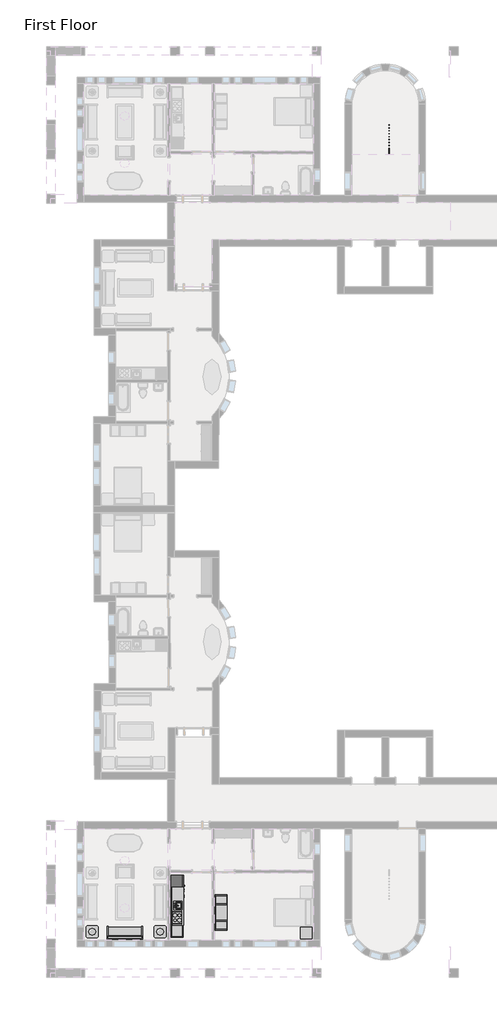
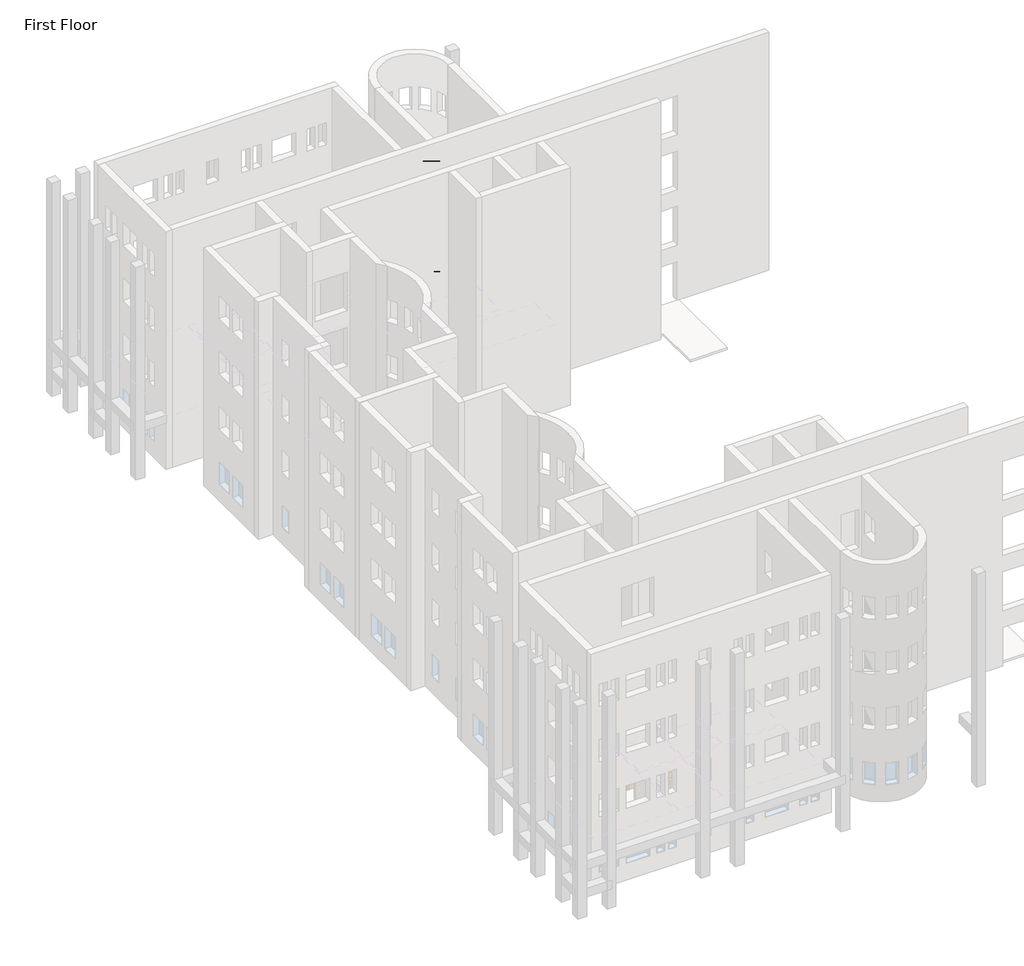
# One storey, part 19 of 21: 5 furniture elements, 1 proxy, 1 railing.
"""IFC4 building model written with IfcOpenShell, lengths in millimetres."""

from ifc_helpers import new_model, si_unit, frame, origin, place, context, project, spatial, polyline, circle_curve, ellipse_curve, outline, extrude, transform, mapped, element, save
from ifc_brep_helpers import plane_surface, cylinder_surface, advanced_brep
from components import proxy_64a468c4, furniture_ddc78764, furniture_4ef38d96, furniture_3a588284

model = new_model("IFC4")

# Units and contexts
model_context = context("Model", 3, world=origin())
ifc_project = project(units=[si_unit("LENGTHUNIT", "METRE", prefix="MILLI")], contexts=[model_context])

# Site, building, storey
site = spatial("IfcSite", under=ifc_project)
building = spatial("IfcBuilding", under=site)
storey = spatial("IfcBuildingStorey", under=building, Name="First Floor", Elevation=0.0)

# Proxy
placement = place(None, origin())
proxy_shape = proxy_64a468c4(model_context)
element("IfcBuildingElementProxy", 1, Name="Kitchenette - Medium : 8'6\"", ObjectType="Kitchenette - Medium : 8'6\"", at=placement, inside=storey, context=model_context, shape_type="MappedRepresentation", body=[
    mapped(proxy_shape, transform((-25982.5839563, -32446.1322699, 0.0), x_axis=(0.0, 1.0, 0.0), y_axis=(-1.0, 0.0, 0.0), z_axis=(0.0, 0.0, 1.0))),
])

# Furniture
furniture_shape = furniture_ddc78764(model_context)
element("IfcFurniture", 2, ObjectType="Entertainment Center : 72\" x 72\" x 24\"", at=placement, inside=storey, context=model_context, shape_type="MappedRepresentation", body=[
    mapped(furniture_shape, transform((-23810.8839563, -32461.1621827, 0.0), x_axis=(0.0, 1.0, 0.0), y_axis=(-1.0, 0.0, 0.0), z_axis=(0.0, 0.0, 1.0))),
])
furniture_2_shape = furniture_4ef38d96(model_context)
element("IfcFurniture", 3, ObjectType="Sofa : 72\"", at=placement, inside=storey, context=model_context, shape_type="MappedRepresentation", body=[
    mapped(furniture_2_shape, transform((-28312.5134645, -33349.614215, 0.0), x_axis=(-1.0, 0.0, 0.0), y_axis=(0.0, -1.0, 0.0), z_axis=(0.0, 0.0, 1.0))),
])
furniture_3_shape = furniture_3a588284(model_context)
element("IfcFurniture", 4, ObjectType="Table-End : 24\" x 24\"", at=placement, inside=storey, context=model_context, shape_type="MappedRepresentation", body=[
    mapped(furniture_3_shape, transform((-29750.750326, -33292.5683133, 0.0), x_axis=(-1.0, 0.0, 0.0), y_axis=(0.0, -1.0, 0.0), z_axis=(0.0, 0.0, 1.0))),
])
element("IfcFurniture", 5, ObjectType="Table-End : 24\" x 24\"", at=placement, inside=storey, context=model_context, shape_type="MappedRepresentation", body=[
    mapped(furniture_3_shape, transform((-26245.550326, -33292.5683133, 0.0), x_axis=(-1.0, 0.0, 0.0), y_axis=(0.0, -1.0, 0.0), z_axis=(0.0, 0.0, 1.0))),
])
element("IfcFurniture", 6, ObjectType="Table-End : 24\" x 24\"", at=placement, inside=storey, context=model_context, shape_type="MappedRepresentation", body=[
    mapped(furniture_3_shape, transform((-18706.1082771, -33364.4103623, 0.0), x_axis=(-1.0, 0.0, 0.0), y_axis=(0.0, -1.0, 0.0), z_axis=(0.0, 0.0, 1.0))),
])

# Railing
element("IfcRailing", 7, ObjectType="Handrail - Rectangular", at=placement, inside=storey, context=model_context, shape_type="SolidModel", body=[
    advanced_brep(
    [(-14712.9214563, 6636.2316867, 7157.4577857), (-14751.0214563, 6636.2316867, 7157.4577857), (-14712.9214563, 8826.9816867, 8485.1850584), (-14751.0214563, 8826.9816867, 8485.1850584)],
    [
        (0, 1, ellipse_curve(frame((-14731.9714563, 6636.2316867, 7157.4577857), z_axis=(0.0, -1.0, 0.0), x_axis=(0.0, 0.0, -1.0)), 22.2755476, 19.05)),
        (1, 0, ellipse_curve(frame((-14731.9714563, 6636.2316867, 7157.4577857), z_axis=(0.0, -1.0, 0.0), x_axis=(0.0, 0.0, -1.0)), 22.2755476, 19.05)),
        (2, 3, ellipse_curve(frame((-14731.9714563, 8826.9816867, 8485.1850584), z_axis=(0.0, 1.0, 0.0), x_axis=(0.0, 0.0, -1.0)), 22.2755476, 19.05)),
        (3, 2, ellipse_curve(frame((-14731.9714563, 8826.9816867, 8485.1850584), z_axis=(0.0, 1.0, 0.0), x_axis=(0.0, 0.0, -1.0)), 22.2755476, 19.05)),
        (0, 2),
        (3, 1),
    ],
    [
        plane_surface(frame((-14731.9714563, 6636.2316867, 7179.7333333), z_axis=(0.0, -1.0, 0.0), x_axis=(0.0, 0.0, 1.0))),
        plane_surface(frame((-14731.9714563, 8826.9816867, 8507.460606), z_axis=(0.0, 1.0, 0.0), x_axis=(0.0, 0.0, 1.0))),
        cylinder_surface(frame((-14731.9714563, 6646.1053344, 7163.4418146), z_axis=(0.0, -0.8551978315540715, -0.5183017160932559), x_axis=(-1.0, 0.0, 0.0)), 19.05),
    ],
    [
        (0, [[1, 2]]),
        (1, [[3, 4]]),
        (2, [[-1, 5, -4, 6]]),
        (2, [[-2, -6, -3, -5]]),
    ],
),
    advanced_brep(
    [(-14712.9214563, 8865.0816867, 8515.35), (-14712.9214563, 8826.9816867, 8515.35), (-15105.0339563, 8865.0816867, 8515.35), (-15105.0339563, 8826.9816867, 8515.35)],
    [
        (0, 1, circle_curve(frame((-14712.9214563, 8846.0316867, 8515.35), z_axis=(1.0, 0.0, 0.0), x_axis=(0.0, -1.0, 0.0)), 19.05)),
        (1, 0, circle_curve(frame((-14712.9214563, 8846.0316867, 8515.35), z_axis=(1.0, 0.0, 0.0), x_axis=(0.0, -1.0, 0.0)), 19.05)),
        (2, 3, circle_curve(frame((-15105.0339563, 8846.0316867, 8515.35), z_axis=(-1.0, 0.0, 0.0), x_axis=(0.0, -1.0, 0.0)), 19.05)),
        (3, 2, circle_curve(frame((-15105.0339563, 8846.0316867, 8515.35), z_axis=(-1.0, 0.0, 0.0), x_axis=(0.0, -1.0, 0.0)), 19.05)),
        (0, 2),
        (3, 1),
    ],
    [
        plane_surface(frame((-14712.9214563, 8846.0316867, 8534.4), z_axis=(1.0, 0.0, 0.0), x_axis=(0.0, -1.0, 0.0))),
        plane_surface(frame((-15105.0339563, 8846.0316867, 8534.4), z_axis=(-1.0, 0.0, 0.0), x_axis=(0.0, -1.0, 0.0))),
        cylinder_surface(frame((-14712.9214563, 8846.0316867, 8515.35), z_axis=(1.0, 0.0, 0.0), x_axis=(0.0, -1.0, 0.0)), 19.05),
    ],
    [
        (0, [[1, 2]]),
        (1, [[3, 4]]),
        (2, [[-1, 5, -4, 6]]),
        (2, [[-2, -6, -3, -5]]),
    ],
),
    advanced_brep(
    [(-15143.1339563, 8865.0816867, 8685.3062706), (-15105.0339563, 8865.0816867, 8685.3062706), (-15143.1339563, 6636.2316867, 10036.1244524), (-15105.0339563, 6636.2316867, 10036.1244524)],
    [
        (0, 1, ellipse_curve(frame((-15124.0839563, 8865.0816867, 8685.3062706), z_axis=(0.0, 1.0, 0.0), x_axis=(0.0, 0.0, -1.0)), 22.2755476, 19.05)),
        (1, 0, ellipse_curve(frame((-15124.0839563, 8865.0816867, 8685.3062706), z_axis=(0.0, 1.0, 0.0), x_axis=(0.0, 0.0, -1.0)), 22.2755476, 19.05)),
        (2, 3, ellipse_curve(frame((-15124.0839563, 6636.2316867, 10036.1244524), z_axis=(0.0, -1.0, 0.0), x_axis=(0.0, 0.0, -1.0)), 22.2755476, 19.05)),
        (3, 2, ellipse_curve(frame((-15124.0839563, 6636.2316867, 10036.1244524), z_axis=(0.0, -1.0, 0.0), x_axis=(0.0, 0.0, -1.0)), 22.2755476, 19.05)),
        (0, 2),
        (3, 1),
    ],
    [
        plane_surface(frame((-15124.0839563, 8865.0816867, 8707.5818182), z_axis=(0.0, 1.0, 0.0), x_axis=(0.0, 0.0, -1.0))),
        plane_surface(frame((-15124.0839563, 6636.2316867, 10058.4), z_axis=(0.0, -1.0, 0.0), x_axis=(0.0, 0.0, -1.0))),
        cylinder_surface(frame((-15124.0839563, 8855.208039, 8691.2902995), z_axis=(0.0, 0.8551978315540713, -0.5183017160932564), x_axis=(1.0, 0.0, 0.0)), 19.05),
    ],
    [
        (0, [[1, 2]]),
        (1, [[3, 4]]),
        (2, [[-1, 5, -4, 6]]),
        (2, [[-2, -6, -3, -5]]),
    ],
),
    extrude(outline(polyline([(6721.9566867, 9961.8943593), (6721.9566867, 9134.8266332), (6702.9066867, 9146.3720877), (6702.9066867, 9973.4398139), (6721.9566867, 9961.8943593)])), frame((-15133.6089563, 0.0, 0.0), z_axis=(1.0, 0.0, 0.0), x_axis=(0.0, 1.0, 0.0)), (0.0, 0.0, 1.0), 19.05),
    extrude(outline(polyline([(6874.3566867, 9869.530723), (6874.3566867, 9042.4629968), (6855.3066867, 9054.0084513), (6855.3066867, 9881.0761775), (6874.3566867, 9869.530723)])), frame((-15133.6089563, 0.0, 0.0), z_axis=(1.0, 0.0, 0.0), x_axis=(0.0, 1.0, 0.0)), (0.0, 0.0, 1.0), 19.05),
    extrude(outline(polyline([(7026.7566867, 9777.1670866), (7026.7566867, 8950.0993604), (7007.7066867, 8961.644815), (7007.7066867, 9788.7125412), (7026.7566867, 9777.1670866)])), frame((-15133.6089563, 0.0, 0.0), z_axis=(1.0, 0.0, 0.0), x_axis=(0.0, 1.0, 0.0)), (0.0, 0.0, 1.0), 19.05),
    extrude(outline(polyline([(7179.1566867, 9684.8034502), (7179.1566867, 8857.7357241), (7160.1066867, 8869.2811786), (7160.1066867, 9696.3489048), (7179.1566867, 9684.8034502)])), frame((-15133.6089563, 0.0, 0.0), z_axis=(1.0, 0.0, 0.0), x_axis=(0.0, 1.0, 0.0)), (0.0, 0.0, 1.0), 19.05),
    extrude(outline(polyline([(7331.5566867, 9592.4398139), (7331.5566867, 8765.3720877), (7312.5066867, 8776.9175422), (7312.5066867, 9603.9852684), (7331.5566867, 9592.4398139)])), frame((-15133.6089563, 0.0, 0.0), z_axis=(1.0, 0.0, 0.0), x_axis=(0.0, 1.0, 0.0)), (0.0, 0.0, 1.0), 19.05),
    extrude(outline(polyline([(7483.9566867, 9500.0761775), (7483.9566867, 8673.0084513), (7464.9066867, 8684.5539059), (7464.9066867, 9511.6216321), (7483.9566867, 9500.0761775)])), frame((-15133.6089563, 0.0, 0.0), z_axis=(1.0, 0.0, 0.0), x_axis=(0.0, 1.0, 0.0)), (0.0, 0.0, 1.0), 19.05),
    extrude(outline(polyline([(7636.3566867, 9407.7125412), (7636.3566867, 8580.644815), (7617.3066867, 8592.1902695), (7617.3066867, 9419.2579957), (7636.3566867, 9407.7125412)])), frame((-15133.6089563, 0.0, 0.0), z_axis=(1.0, 0.0, 0.0), x_axis=(0.0, 1.0, 0.0)), (0.0, 0.0, 1.0), 19.05),
    extrude(outline(polyline([(7788.7566867, 9315.3489048), (7788.7566867, 8488.2811786), (7769.7066867, 8499.8266332), (7769.7066867, 9326.8943593), (7788.7566867, 9315.3489048)])), frame((-15133.6089563, 0.0, 0.0), z_axis=(1.0, 0.0, 0.0), x_axis=(0.0, 1.0, 0.0)), (0.0, 0.0, 1.0), 19.05),
    extrude(outline(polyline([(7941.1566867, 9222.9852684), (7941.1566867, 8395.9175422), (7922.1066867, 8407.4629968), (7922.1066867, 9234.530723), (7941.1566867, 9222.9852684)])), frame((-15133.6089563, 0.0, 0.0), z_axis=(1.0, 0.0, 0.0), x_axis=(0.0, 1.0, 0.0)), (0.0, 0.0, 1.0), 19.05),
    extrude(outline(polyline([(8093.5566867, 9130.6216321), (8093.5566867, 8303.5539059), (8074.5066867, 8315.0993604), (8074.5066867, 9142.1670866), (8093.5566867, 9130.6216321)])), frame((-15133.6089563, 0.0, 0.0), z_axis=(1.0, 0.0, 0.0), x_axis=(0.0, 1.0, 0.0)), (0.0, 0.0, 1.0), 19.05),
    extrude(outline(polyline([(8245.9566867, 9038.2579957), (8245.9566867, 8211.1902695), (8226.9066867, 8222.7357241), (8226.9066867, 9049.8034502), (8245.9566867, 9038.2579957)])), frame((-15133.6089563, 0.0, 0.0), z_axis=(1.0, 0.0, 0.0), x_axis=(0.0, 1.0, 0.0)), (0.0, 0.0, 1.0), 19.05),
    extrude(outline(polyline([(8398.3566867, 8945.8943593), (8398.3566867, 8118.8266332), (8379.3066867, 8130.3720877), (8379.3066867, 8957.4398139), (8398.3566867, 8945.8943593)])), frame((-15133.6089563, 0.0, 0.0), z_axis=(1.0, 0.0, 0.0), x_axis=(0.0, 1.0, 0.0)), (0.0, 0.0, 1.0), 19.05),
    extrude(outline(polyline([(8550.7566867, 8853.530723), (8550.7566867, 8026.4629968), (8531.7066867, 8038.0084513), (8531.7066867, 8865.0761775), (8550.7566867, 8853.530723)])), frame((-15133.6089563, 0.0, 0.0), z_axis=(1.0, 0.0, 0.0), x_axis=(0.0, 1.0, 0.0)), (0.0, 0.0, 1.0), 19.05),
    extrude(outline(polyline([(8703.1566867, 8761.1670866), (8703.1566867, 7934.0993604), (8684.1066867, 7945.644815), (8684.1066867, 8772.7125412), (8703.1566867, 8761.1670866)])), frame((-15133.6089563, 0.0, 0.0), z_axis=(1.0, 0.0, 0.0), x_axis=(0.0, 1.0, 0.0)), (0.0, 0.0, 1.0), 19.05),
    extrude(outline(polyline([(-15027.2464563, 8836.5066867), (-15046.2964563, 8836.5066867), (-15046.2964563, 8855.5566867), (-15027.2464563, 8855.5566867), (-15027.2464563, 8836.5066867)])), frame((0.0, 0.0, 7696.2), z_axis=(0.0, 0.0, 1.0), x_axis=(1.0, 0.0, 0.0)), (0.0, 0.0, 1.0), 800.1),
    extrude(outline(polyline([(-14874.8464563, 8836.5066867), (-14893.8964563, 8836.5066867), (-14893.8964563, 8855.5566867), (-14874.8464563, 8855.5566867), (-14874.8464563, 8836.5066867)])), frame((0.0, 0.0, 7696.2), z_axis=(0.0, 0.0, 1.0), x_axis=(1.0, 0.0, 0.0)), (0.0, 0.0, 1.0), 800.1),
    extrude(outline(polyline([(8779.3566867, 8434.0458745), (8779.3566867, 7606.9781483), (8760.3066867, 7595.4326938), (8760.3066867, 8422.5004199), (8779.3566867, 8434.0458745)])), frame((-14741.4964563, 0.0, 0.0), z_axis=(1.0, 0.0, 0.0), x_axis=(0.0, 1.0, 0.0)), (0.0, 0.0, 1.0), 19.05),
    extrude(outline(polyline([(8626.9566867, 8341.6822381), (8626.9566867, 7514.6145119), (8607.9066867, 7503.0690574), (8607.9066867, 8330.1367836), (8626.9566867, 8341.6822381)])), frame((-14741.4964563, 0.0, 0.0), z_axis=(1.0, 0.0, 0.0), x_axis=(0.0, 1.0, 0.0)), (0.0, 0.0, 1.0), 19.05),
    extrude(outline(polyline([(8474.5566867, 8249.3186018), (8474.5566867, 7422.2508756), (8455.5066867, 7410.705421), (8455.5066867, 8237.7731472), (8474.5566867, 8249.3186018)])), frame((-14741.4964563, 0.0, 0.0), z_axis=(1.0, 0.0, 0.0), x_axis=(0.0, 1.0, 0.0)), (0.0, 0.0, 1.0), 19.05),
    extrude(outline(polyline([(8322.1566867, 8156.9549654), (8322.1566867, 7329.8872392), (8303.1066867, 7318.3417847), (8303.1066867, 8145.4095109), (8322.1566867, 8156.9549654)])), frame((-14741.4964563, 0.0, 0.0), z_axis=(1.0, 0.0, 0.0), x_axis=(0.0, 1.0, 0.0)), (0.0, 0.0, 1.0), 19.05),
    extrude(outline(polyline([(8169.7566867, 8064.591329), (8169.7566867, 7237.5236029), (8150.7066867, 7225.9781483), (8150.7066867, 8053.0458745), (8169.7566867, 8064.591329)])), frame((-14741.4964563, 0.0, 0.0), z_axis=(1.0, 0.0, 0.0), x_axis=(0.0, 1.0, 0.0)), (0.0, 0.0, 1.0), 19.05),
    extrude(outline(polyline([(8017.3566867, 7972.2276927), (8017.3566867, 7145.1599665), (7998.3066867, 7133.6145119), (7998.3066867, 7960.6822381), (8017.3566867, 7972.2276927)])), frame((-14741.4964563, 0.0, 0.0), z_axis=(1.0, 0.0, 0.0), x_axis=(0.0, 1.0, 0.0)), (0.0, 0.0, 1.0), 19.05),
    extrude(outline(polyline([(7864.9566867, 7879.8640563), (7864.9566867, 7052.7963301), (7845.9066867, 7041.2508756), (7845.9066867, 7868.3186018), (7864.9566867, 7879.8640563)])), frame((-14741.4964563, 0.0, 0.0), z_axis=(1.0, 0.0, 0.0), x_axis=(0.0, 1.0, 0.0)), (0.0, 0.0, 1.0), 19.05),
    extrude(outline(polyline([(7712.5566867, 7787.5004199), (7712.5566867, 6960.4326938), (7693.5066867, 6948.8872392), (7693.5066867, 7775.9549654), (7712.5566867, 7787.5004199)])), frame((-14741.4964563, 0.0, 0.0), z_axis=(1.0, 0.0, 0.0), x_axis=(0.0, 1.0, 0.0)), (0.0, 0.0, 1.0), 19.05),
    extrude(outline(polyline([(7560.1566867, 7695.1367836), (7560.1566867, 6868.0690574), (7541.1066867, 6856.5236029), (7541.1066867, 7683.591329), (7560.1566867, 7695.1367836)])), frame((-14741.4964563, 0.0, 0.0), z_axis=(1.0, 0.0, 0.0), x_axis=(0.0, 1.0, 0.0)), (0.0, 0.0, 1.0), 19.05),
    extrude(outline(polyline([(7407.7566867, 7602.7731472), (7407.7566867, 6775.705421), (7388.7066867, 6764.1599665), (7388.7066867, 7591.2276927), (7407.7566867, 7602.7731472)])), frame((-14741.4964563, 0.0, 0.0), z_axis=(1.0, 0.0, 0.0), x_axis=(0.0, 1.0, 0.0)), (0.0, 0.0, 1.0), 19.05),
    extrude(outline(polyline([(7255.3566867, 7510.4095109), (7255.3566867, 6683.3417847), (7236.3066867, 6671.7963301), (7236.3066867, 7498.8640563), (7255.3566867, 7510.4095109)])), frame((-14741.4964563, 0.0, 0.0), z_axis=(1.0, 0.0, 0.0), x_axis=(0.0, 1.0, 0.0)), (0.0, 0.0, 1.0), 19.05),
    extrude(outline(polyline([(7102.9566867, 7418.0458745), (7102.9566867, 6590.9781483), (7083.9066867, 6579.4326938), (7083.9066867, 7406.5004199), (7102.9566867, 7418.0458745)])), frame((-14741.4964563, 0.0, 0.0), z_axis=(1.0, 0.0, 0.0), x_axis=(0.0, 1.0, 0.0)), (0.0, 0.0, 1.0), 19.05),
    extrude(outline(polyline([(6950.5566867, 7325.6822381), (6950.5566867, 6498.6145119), (6931.5066867, 6487.0690574), (6931.5066867, 7314.1367836), (6950.5566867, 7325.6822381)])), frame((-14741.4964563, 0.0, 0.0), z_axis=(1.0, 0.0, 0.0), x_axis=(0.0, 1.0, 0.0)), (0.0, 0.0, 1.0), 19.05),
    extrude(outline(polyline([(6798.1566867, 7233.3186018), (6798.1566867, 6406.2508756), (6779.1066867, 6394.705421), (6779.1066867, 7221.7731472), (6798.1566867, 7233.3186018)])), frame((-14741.4964563, 0.0, 0.0), z_axis=(1.0, 0.0, 0.0), x_axis=(0.0, 1.0, 0.0)), (0.0, 0.0, 1.0), 19.05),
    extrude(outline(polyline([(8855.5566867, 8668.8034502), (8855.5566867, 7841.7357241), (8836.5066867, 7853.2811786), (8836.5066867, 8680.3489048), (8855.5566867, 8668.8034502)])), frame((-15133.6089563, 0.0, 0.0), z_axis=(1.0, 0.0, 0.0), x_axis=(0.0, 1.0, 0.0)), (0.0, 0.0, 1.0), 19.05),
    extrude(outline(polyline([(-14722.4464563, 8836.5066867), (-14741.4964563, 8836.5066867), (-14741.4964563, 8855.5566867), (-14722.4464563, 8855.5566867), (-14722.4464563, 8836.5066867)])), frame((0.0, 0.0, 7696.2), z_axis=(0.0, 0.0, 1.0), x_axis=(1.0, 0.0, 0.0)), (0.0, 0.0, 1.0), 800.1),
    extrude(outline(polyline([(6655.2816867, 10002.3034502), (6655.2816867, 9175.2357241), (6636.2316867, 9186.7811786), (6636.2316867, 10013.8489048), (6655.2816867, 10002.3034502)])), frame((-15133.6089563, 0.0, 0.0), z_axis=(1.0, 0.0, 0.0), x_axis=(0.0, 1.0, 0.0)), (0.0, 0.0, 1.0), 19.05),
    extrude(outline(polyline([(6655.2816867, 7146.7276927), (6655.2816867, 6319.6599665), (6636.2316867, 6308.1145119), (6636.2316867, 7135.1822381), (6655.2816867, 7146.7276927)])), frame((-14741.4964563, 0.0, 0.0), z_axis=(1.0, 0.0, 0.0), x_axis=(0.0, 1.0, 0.0)), (0.0, 0.0, 1.0), 19.05),
    advanced_brep(
    [(-14712.9214563, 6636.2316867, 4109.4577857), (-14751.0214563, 6636.2316867, 4109.4577857), (-14712.9214563, 8826.9816867, 5437.1850585), (-14751.0214563, 8826.9816867, 5437.1850585)],
    [
        (0, 1, ellipse_curve(frame((-14731.9714563, 6636.2316867, 4109.4577857), z_axis=(0.0, -1.0, 0.0), x_axis=(0.0, 0.0, -1.0)), 22.2755476, 19.05)),
        (1, 0, ellipse_curve(frame((-14731.9714563, 6636.2316867, 4109.4577857), z_axis=(0.0, -1.0, 0.0), x_axis=(0.0, 0.0, -1.0)), 22.2755476, 19.05)),
        (2, 3, ellipse_curve(frame((-14731.9714563, 8826.9816867, 5437.1850585), z_axis=(0.0, 1.0, 0.0), x_axis=(0.0, 0.0, -1.0)), 22.2755476, 19.05)),
        (3, 2, ellipse_curve(frame((-14731.9714563, 8826.9816867, 5437.1850585), z_axis=(0.0, 1.0, 0.0), x_axis=(0.0, 0.0, -1.0)), 22.2755476, 19.05)),
        (0, 2),
        (3, 1),
    ],
    [
        plane_surface(frame((-14731.9714563, 6636.2316867, 4131.7333333), z_axis=(0.0, -1.0, 0.0), x_axis=(0.0, 0.0, 1.0))),
        plane_surface(frame((-14731.9714563, 8826.9816867, 5459.4606061), z_axis=(0.0, 1.0, 0.0), x_axis=(0.0, 0.0, 1.0))),
        cylinder_surface(frame((-14731.9714563, 6646.1053344, 4115.4418146), z_axis=(0.0, -0.8551978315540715, -0.5183017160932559), x_axis=(-1.0, 0.0, 0.0)), 19.05),
    ],
    [
        (0, [[1, 2]]),
        (1, [[3, 4]]),
        (2, [[-1, 5, -4, 6]]),
        (2, [[-2, -6, -3, -5]]),
    ],
),
    advanced_brep(
    [(-14712.9214563, 8865.0816867, 5467.35), (-14712.9214563, 8826.9816867, 5467.35), (-15105.0339563, 8865.0816867, 5467.35), (-15105.0339563, 8826.9816867, 5467.35)],
    [
        (0, 1, circle_curve(frame((-14712.9214563, 8846.0316867, 5467.35), z_axis=(1.0, 0.0, 0.0), x_axis=(0.0, -1.0, 0.0)), 19.05)),
        (1, 0, circle_curve(frame((-14712.9214563, 8846.0316867, 5467.35), z_axis=(1.0, 0.0, 0.0), x_axis=(0.0, -1.0, 0.0)), 19.05)),
        (2, 3, circle_curve(frame((-15105.0339563, 8846.0316867, 5467.35), z_axis=(-1.0, 0.0, 0.0), x_axis=(0.0, -1.0, 0.0)), 19.05)),
        (3, 2, circle_curve(frame((-15105.0339563, 8846.0316867, 5467.35), z_axis=(-1.0, 0.0, 0.0), x_axis=(0.0, -1.0, 0.0)), 19.05)),
        (0, 2),
        (3, 1),
    ],
    [
        plane_surface(frame((-14712.9214563, 8846.0316867, 5486.4), z_axis=(1.0, 0.0, 0.0), x_axis=(0.0, -1.0, 0.0))),
        plane_surface(frame((-15105.0339563, 8846.0316867, 5486.4), z_axis=(-1.0, 0.0, 0.0), x_axis=(0.0, -1.0, 0.0))),
        cylinder_surface(frame((-14712.9214563, 8846.0316867, 5467.35), z_axis=(1.0, 0.0, 0.0), x_axis=(0.0, -1.0, 0.0)), 19.05),
    ],
    [
        (0, [[1, 2]]),
        (1, [[3, 4]]),
        (2, [[-1, 5, -4, 6]]),
        (2, [[-2, -6, -3, -5]]),
    ],
),
    advanced_brep(
    [(-15143.1339563, 8865.0816867, 5637.3062706), (-15105.0339563, 8865.0816867, 5637.3062706), (-15143.1339563, 6636.2316867, 6988.1244524), (-15105.0339563, 6636.2316867, 6988.1244524)],
    [
        (0, 1, ellipse_curve(frame((-15124.0839563, 8865.0816867, 5637.3062706), z_axis=(0.0, 1.0, 0.0), x_axis=(0.0, 0.0, -1.0)), 22.2755476, 19.05)),
        (1, 0, ellipse_curve(frame((-15124.0839563, 8865.0816867, 5637.3062706), z_axis=(0.0, 1.0, 0.0), x_axis=(0.0, 0.0, -1.0)), 22.2755476, 19.05)),
        (2, 3, ellipse_curve(frame((-15124.0839563, 6636.2316867, 6988.1244524), z_axis=(0.0, -1.0, 0.0), x_axis=(0.0, 0.0, -1.0)), 22.2755476, 19.05)),
        (3, 2, ellipse_curve(frame((-15124.0839563, 6636.2316867, 6988.1244524), z_axis=(0.0, -1.0, 0.0), x_axis=(0.0, 0.0, -1.0)), 22.2755476, 19.05)),
        (0, 2),
        (3, 1),
    ],
    [
        plane_surface(frame((-15124.0839563, 8865.0816867, 5659.5818182), z_axis=(0.0, 1.0, 0.0), x_axis=(0.0, 0.0, -1.0))),
        plane_surface(frame((-15124.0839563, 6636.2316867, 7010.4), z_axis=(0.0, -1.0, 0.0), x_axis=(0.0, 0.0, -1.0))),
        cylinder_surface(frame((-15124.0839563, 8855.208039, 5643.2902995), z_axis=(0.0, 0.8551978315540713, -0.5183017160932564), x_axis=(1.0, 0.0, 0.0)), 19.05),
    ],
    [
        (0, [[1, 2]]),
        (1, [[3, 4]]),
        (2, [[-1, 5, -4, 6]]),
        (2, [[-2, -6, -3, -5]]),
    ],
),
    extrude(outline(polyline([(6721.9566867, 6913.8943593), (6721.9566867, 6086.8266332), (6702.9066867, 6098.3720877), (6702.9066867, 6925.4398139), (6721.9566867, 6913.8943593)])), frame((-15133.6089563, 0.0, 0.0), z_axis=(1.0, 0.0, 0.0), x_axis=(0.0, 1.0, 0.0)), (0.0, 0.0, 1.0), 19.05),
    extrude(outline(polyline([(6874.3566867, 6821.530723), (6874.3566867, 5994.4629968), (6855.3066867, 6006.0084513), (6855.3066867, 6833.0761775), (6874.3566867, 6821.530723)])), frame((-15133.6089563, 0.0, 0.0), z_axis=(1.0, 0.0, 0.0), x_axis=(0.0, 1.0, 0.0)), (0.0, 0.0, 1.0), 19.05),
    extrude(outline(polyline([(7026.7566867, 6729.1670866), (7026.7566867, 5902.0993604), (7007.7066867, 5913.644815), (7007.7066867, 6740.7125412), (7026.7566867, 6729.1670866)])), frame((-15133.6089563, 0.0, 0.0), z_axis=(1.0, 0.0, 0.0), x_axis=(0.0, 1.0, 0.0)), (0.0, 0.0, 1.0), 19.05),
    extrude(outline(polyline([(7179.1566867, 6636.8034503), (7179.1566867, 5809.7357241), (7160.1066867, 5821.2811786), (7160.1066867, 6648.3489048), (7179.1566867, 6636.8034503)])), frame((-15133.6089563, 0.0, 0.0), z_axis=(1.0, 0.0, 0.0), x_axis=(0.0, 1.0, 0.0)), (0.0, 0.0, 1.0), 19.05),
    extrude(outline(polyline([(7331.5566867, 6544.4398139), (7331.5566867, 5717.3720877), (7312.5066867, 5728.9175423), (7312.5066867, 6555.9852684), (7331.5566867, 6544.4398139)])), frame((-15133.6089563, 0.0, 0.0), z_axis=(1.0, 0.0, 0.0), x_axis=(0.0, 1.0, 0.0)), (0.0, 0.0, 1.0), 19.05),
    extrude(outline(polyline([(7483.9566867, 6452.0761775), (7483.9566867, 5625.0084513), (7464.9066867, 5636.5539059), (7464.9066867, 6463.6216321), (7483.9566867, 6452.0761775)])), frame((-15133.6089563, 0.0, 0.0), z_axis=(1.0, 0.0, 0.0), x_axis=(0.0, 1.0, 0.0)), (0.0, 0.0, 1.0), 19.05),
    extrude(outline(polyline([(7636.3566867, 6359.7125412), (7636.3566867, 5532.644815), (7617.3066867, 5544.1902695), (7617.3066867, 6371.2579957), (7636.3566867, 6359.7125412)])), frame((-15133.6089563, 0.0, 0.0), z_axis=(1.0, 0.0, 0.0), x_axis=(0.0, 1.0, 0.0)), (0.0, 0.0, 1.0), 19.05),
    extrude(outline(polyline([(7788.7566867, 6267.3489048), (7788.7566867, 5440.2811786), (7769.7066867, 5451.8266332), (7769.7066867, 6278.8943593), (7788.7566867, 6267.3489048)])), frame((-15133.6089563, 0.0, 0.0), z_axis=(1.0, 0.0, 0.0), x_axis=(0.0, 1.0, 0.0)), (0.0, 0.0, 1.0), 19.05),
    extrude(outline(polyline([(7941.1566867, 6174.9852684), (7941.1566867, 5347.9175423), (7922.1066867, 5359.4629968), (7922.1066867, 6186.530723), (7941.1566867, 6174.9852684)])), frame((-15133.6089563, 0.0, 0.0), z_axis=(1.0, 0.0, 0.0), x_axis=(0.0, 1.0, 0.0)), (0.0, 0.0, 1.0), 19.05),
    extrude(outline(polyline([(8093.5566867, 6082.6216321), (8093.5566867, 5255.5539059), (8074.5066867, 5267.0993604), (8074.5066867, 6094.1670866), (8093.5566867, 6082.6216321)])), frame((-15133.6089563, 0.0, 0.0), z_axis=(1.0, 0.0, 0.0), x_axis=(0.0, 1.0, 0.0)), (0.0, 0.0, 1.0), 19.05),
    extrude(outline(polyline([(8245.9566867, 5990.2579957), (8245.9566867, 5163.1902695), (8226.9066867, 5174.7357241), (8226.9066867, 6001.8034503), (8245.9566867, 5990.2579957)])), frame((-15133.6089563, 0.0, 0.0), z_axis=(1.0, 0.0, 0.0), x_axis=(0.0, 1.0, 0.0)), (0.0, 0.0, 1.0), 19.05),
    extrude(outline(polyline([(8398.3566867, 5897.8943593), (8398.3566867, 5070.8266332), (8379.3066867, 5082.3720877), (8379.3066867, 5909.4398139), (8398.3566867, 5897.8943593)])), frame((-15133.6089563, 0.0, 0.0), z_axis=(1.0, 0.0, 0.0), x_axis=(0.0, 1.0, 0.0)), (0.0, 0.0, 1.0), 19.05),
    extrude(outline(polyline([(8550.7566867, 5805.530723), (8550.7566867, 4978.4629968), (8531.7066867, 4990.0084513), (8531.7066867, 5817.0761775), (8550.7566867, 5805.530723)])), frame((-15133.6089563, 0.0, 0.0), z_axis=(1.0, 0.0, 0.0), x_axis=(0.0, 1.0, 0.0)), (0.0, 0.0, 1.0), 19.05),
    extrude(outline(polyline([(8703.1566867, 5713.1670866), (8703.1566867, 4886.0993604), (8684.1066867, 4897.644815), (8684.1066867, 5724.7125412), (8703.1566867, 5713.1670866)])), frame((-15133.6089563, 0.0, 0.0), z_axis=(1.0, 0.0, 0.0), x_axis=(0.0, 1.0, 0.0)), (0.0, 0.0, 1.0), 19.05),
    extrude(outline(polyline([(-15027.2464563, 8836.5066867), (-15046.2964563, 8836.5066867), (-15046.2964563, 8855.5566867), (-15027.2464563, 8855.5566867), (-15027.2464563, 8836.5066867)])), frame((0.0, 0.0, 4648.2), z_axis=(0.0, 0.0, 1.0), x_axis=(1.0, 0.0, 0.0)), (0.0, 0.0, 1.0), 800.1),
    extrude(outline(polyline([(-14874.8464563, 8836.5066867), (-14893.8964563, 8836.5066867), (-14893.8964563, 8855.5566867), (-14874.8464563, 8855.5566867), (-14874.8464563, 8836.5066867)])), frame((0.0, 0.0, 4648.2), z_axis=(0.0, 0.0, 1.0), x_axis=(1.0, 0.0, 0.0)), (0.0, 0.0, 1.0), 800.1),
    extrude(outline(polyline([(8779.3566867, 5386.0458745), (8779.3566867, 4558.9781483), (8760.3066867, 4547.4326938), (8760.3066867, 5374.50042), (8779.3566867, 5386.0458745)])), frame((-14741.4964563, 0.0, 0.0), z_axis=(1.0, 0.0, 0.0), x_axis=(0.0, 1.0, 0.0)), (0.0, 0.0, 1.0), 19.05),
    extrude(outline(polyline([(8626.9566867, 5293.6822381), (8626.9566867, 4466.614512), (8607.9066867, 4455.0690574), (8607.9066867, 5282.1367836), (8626.9566867, 5293.6822381)])), frame((-14741.4964563, 0.0, 0.0), z_axis=(1.0, 0.0, 0.0), x_axis=(0.0, 1.0, 0.0)), (0.0, 0.0, 1.0), 19.05),
    extrude(outline(polyline([(8474.5566867, 5201.3186018), (8474.5566867, 4374.2508756), (8455.5066867, 4362.705421), (8455.5066867, 5189.7731472), (8474.5566867, 5201.3186018)])), frame((-14741.4964563, 0.0, 0.0), z_axis=(1.0, 0.0, 0.0), x_axis=(0.0, 1.0, 0.0)), (0.0, 0.0, 1.0), 19.05),
    extrude(outline(polyline([(8322.1566867, 5108.9549654), (8322.1566867, 4281.8872392), (8303.1066867, 4270.3417847), (8303.1066867, 5097.4095109), (8322.1566867, 5108.9549654)])), frame((-14741.4964563, 0.0, 0.0), z_axis=(1.0, 0.0, 0.0), x_axis=(0.0, 1.0, 0.0)), (0.0, 0.0, 1.0), 19.05),
    extrude(outline(polyline([(8169.7566867, 5016.591329), (8169.7566867, 4189.5236029), (8150.7066867, 4177.9781483), (8150.7066867, 5005.0458745), (8169.7566867, 5016.591329)])), frame((-14741.4964563, 0.0, 0.0), z_axis=(1.0, 0.0, 0.0), x_axis=(0.0, 1.0, 0.0)), (0.0, 0.0, 1.0), 19.05),
    extrude(outline(polyline([(8017.3566867, 4924.2276927), (8017.3566867, 4097.1599665), (7998.3066867, 4085.614512), (7998.3066867, 4912.6822381), (8017.3566867, 4924.2276927)])), frame((-14741.4964563, 0.0, 0.0), z_axis=(1.0, 0.0, 0.0), x_axis=(0.0, 1.0, 0.0)), (0.0, 0.0, 1.0), 19.05),
    extrude(outline(polyline([(7864.9566867, 4831.8640563), (7864.9566867, 4004.7963301), (7845.9066867, 3993.2508756), (7845.9066867, 4820.3186018), (7864.9566867, 4831.8640563)])), frame((-14741.4964563, 0.0, 0.0), z_axis=(1.0, 0.0, 0.0), x_axis=(0.0, 1.0, 0.0)), (0.0, 0.0, 1.0), 19.05),
    extrude(outline(polyline([(7712.5566867, 4739.50042), (7712.5566867, 3912.4326938), (7693.5066867, 3900.8872392), (7693.5066867, 4727.9549654), (7712.5566867, 4739.50042)])), frame((-14741.4964563, 0.0, 0.0), z_axis=(1.0, 0.0, 0.0), x_axis=(0.0, 1.0, 0.0)), (0.0, 0.0, 1.0), 19.05),
    extrude(outline(polyline([(7560.1566867, 4647.1367836), (7560.1566867, 3820.0690574), (7541.1066867, 3808.5236029), (7541.1066867, 4635.591329), (7560.1566867, 4647.1367836)])), frame((-14741.4964563, 0.0, 0.0), z_axis=(1.0, 0.0, 0.0), x_axis=(0.0, 1.0, 0.0)), (0.0, 0.0, 1.0), 19.05),
    extrude(outline(polyline([(7407.7566867, 4554.7731472), (7407.7566867, 3727.705421), (7388.7066867, 3716.1599665), (7388.7066867, 4543.2276927), (7407.7566867, 4554.7731472)])), frame((-14741.4964563, 0.0, 0.0), z_axis=(1.0, 0.0, 0.0), x_axis=(0.0, 1.0, 0.0)), (0.0, 0.0, 1.0), 19.05),
    extrude(outline(polyline([(7255.3566867, 4462.4095109), (7255.3566867, 3635.3417847), (7236.3066867, 3623.7963301), (7236.3066867, 4450.8640563), (7255.3566867, 4462.4095109)])), frame((-14741.4964563, 0.0, 0.0), z_axis=(1.0, 0.0, 0.0), x_axis=(0.0, 1.0, 0.0)), (0.0, 0.0, 1.0), 19.05),
    extrude(outline(polyline([(7102.9566867, 4370.0458745), (7102.9566867, 3542.9781483), (7083.9066867, 3531.4326938), (7083.9066867, 4358.50042), (7102.9566867, 4370.0458745)])), frame((-14741.4964563, 0.0, 0.0), z_axis=(1.0, 0.0, 0.0), x_axis=(0.0, 1.0, 0.0)), (0.0, 0.0, 1.0), 19.05),
    extrude(outline(polyline([(6950.5566867, 4277.6822381), (6950.5566867, 3450.614512), (6931.5066867, 3439.0690574), (6931.5066867, 4266.1367836), (6950.5566867, 4277.6822381)])), frame((-14741.4964563, 0.0, 0.0), z_axis=(1.0, 0.0, 0.0), x_axis=(0.0, 1.0, 0.0)), (0.0, 0.0, 1.0), 19.05),
    extrude(outline(polyline([(6798.1566867, 4185.3186018), (6798.1566867, 3358.2508756), (6779.1066867, 3346.705421), (6779.1066867, 4173.7731472), (6798.1566867, 4185.3186018)])), frame((-14741.4964563, 0.0, 0.0), z_axis=(1.0, 0.0, 0.0), x_axis=(0.0, 1.0, 0.0)), (0.0, 0.0, 1.0), 19.05),
    extrude(outline(polyline([(8855.5566867, 5620.8034503), (8855.5566867, 4793.7357241), (8836.5066867, 4805.2811786), (8836.5066867, 5632.3489048), (8855.5566867, 5620.8034503)])), frame((-15133.6089563, 0.0, 0.0), z_axis=(1.0, 0.0, 0.0), x_axis=(0.0, 1.0, 0.0)), (0.0, 0.0, 1.0), 19.05),
    extrude(outline(polyline([(-14722.4464563, 8836.5066867), (-14741.4964563, 8836.5066867), (-14741.4964563, 8855.5566867), (-14722.4464563, 8855.5566867), (-14722.4464563, 8836.5066867)])), frame((0.0, 0.0, 4648.2), z_axis=(0.0, 0.0, 1.0), x_axis=(1.0, 0.0, 0.0)), (0.0, 0.0, 1.0), 800.1),
    extrude(outline(polyline([(6655.2816867, 6954.3034503), (6655.2816867, 6127.2357241), (6636.2316867, 6138.7811786), (6636.2316867, 6965.8489048), (6655.2816867, 6954.3034503)])), frame((-15133.6089563, 0.0, 0.0), z_axis=(1.0, 0.0, 0.0), x_axis=(0.0, 1.0, 0.0)), (0.0, 0.0, 1.0), 19.05),
    extrude(outline(polyline([(6655.2816867, 4098.7276927), (6655.2816867, 3271.6599665), (6636.2316867, 3260.114512), (6636.2316867, 4087.1822381), (6655.2816867, 4098.7276927)])), frame((-14741.4964563, 0.0, 0.0), z_axis=(1.0, 0.0, 0.0), x_axis=(0.0, 1.0, 0.0)), (0.0, 0.0, 1.0), 19.05),
    advanced_brep(
    [(-14712.9214563, 6636.2316867, 1061.4577857), (-14751.0214563, 6636.2316867, 1061.4577857), (-14712.9214563, 8826.9816867, 2389.1850585), (-14751.0214563, 8826.9816867, 2389.1850585)],
    [
        (0, 1, ellipse_curve(frame((-14731.9714563, 6636.2316867, 1061.4577857), z_axis=(0.0, -1.0, 0.0), x_axis=(0.0, 0.0, -1.0)), 22.2755476, 19.05)),
        (1, 0, ellipse_curve(frame((-14731.9714563, 6636.2316867, 1061.4577857), z_axis=(0.0, -1.0, 0.0), x_axis=(0.0, 0.0, -1.0)), 22.2755476, 19.05)),
        (2, 3, ellipse_curve(frame((-14731.9714563, 8826.9816867, 2389.1850585), z_axis=(0.0, 1.0, 0.0), x_axis=(0.0, 0.0, -1.0)), 22.2755476, 19.05)),
        (3, 2, ellipse_curve(frame((-14731.9714563, 8826.9816867, 2389.1850585), z_axis=(0.0, 1.0, 0.0), x_axis=(0.0, 0.0, -1.0)), 22.2755476, 19.05)),
        (0, 2),
        (3, 1),
    ],
    [
        plane_surface(frame((-14731.9714563, 6636.2316867, 1083.7333333), z_axis=(0.0, -1.0, 0.0), x_axis=(0.0, 0.0, 1.0))),
        plane_surface(frame((-14731.9714563, 8826.9816867, 2411.4606061), z_axis=(0.0, 1.0, 0.0), x_axis=(0.0, 0.0, 1.0))),
        cylinder_surface(frame((-14731.9714563, 6646.1053344, 1067.4418146), z_axis=(0.0, -0.8551978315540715, -0.5183017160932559), x_axis=(-1.0, 0.0, 0.0)), 19.05),
    ],
    [
        (0, [[1, 2]]),
        (1, [[3, 4]]),
        (2, [[-1, 5, -4, 6]]),
        (2, [[-2, -6, -3, -5]]),
    ],
),
    advanced_brep(
    [(-14712.9214563, 8865.0816867, 2419.35), (-14712.9214563, 8826.9816867, 2419.35), (-15105.0339563, 8865.0816867, 2419.35), (-15105.0339563, 8826.9816867, 2419.35)],
    [
        (0, 1, circle_curve(frame((-14712.9214563, 8846.0316867, 2419.35), z_axis=(1.0, 0.0, 0.0), x_axis=(0.0, -1.0, 0.0)), 19.05)),
        (1, 0, circle_curve(frame((-14712.9214563, 8846.0316867, 2419.35), z_axis=(1.0, 0.0, 0.0), x_axis=(0.0, -1.0, 0.0)), 19.05)),
        (2, 3, circle_curve(frame((-15105.0339563, 8846.0316867, 2419.35), z_axis=(-1.0, 0.0, 0.0), x_axis=(0.0, -1.0, 0.0)), 19.05)),
        (3, 2, circle_curve(frame((-15105.0339563, 8846.0316867, 2419.35), z_axis=(-1.0, 0.0, 0.0), x_axis=(0.0, -1.0, 0.0)), 19.05)),
        (0, 2),
        (3, 1),
    ],
    [
        plane_surface(frame((-14712.9214563, 8846.0316867, 2438.4), z_axis=(1.0, 0.0, 0.0), x_axis=(0.0, -1.0, 0.0))),
        plane_surface(frame((-15105.0339563, 8846.0316867, 2438.4), z_axis=(-1.0, 0.0, 0.0), x_axis=(0.0, -1.0, 0.0))),
        cylinder_surface(frame((-14712.9214563, 8846.0316867, 2419.35), z_axis=(1.0, 0.0, 0.0), x_axis=(0.0, -1.0, 0.0)), 19.05),
    ],
    [
        (0, [[1, 2]]),
        (1, [[3, 4]]),
        (2, [[-1, 5, -4, 6]]),
        (2, [[-2, -6, -3, -5]]),
    ],
),
    advanced_brep(
    [(-15143.1339563, 8865.0816867, 2589.3062706), (-15105.0339563, 8865.0816867, 2589.3062706), (-15143.1339563, 6636.2316867, 3940.1244524), (-15105.0339563, 6636.2316867, 3940.1244524)],
    [
        (0, 1, ellipse_curve(frame((-15124.0839563, 8865.0816867, 2589.3062706), z_axis=(0.0, 1.0, 0.0), x_axis=(0.0, 0.0, -1.0)), 22.2755476, 19.05)),
        (1, 0, ellipse_curve(frame((-15124.0839563, 8865.0816867, 2589.3062706), z_axis=(0.0, 1.0, 0.0), x_axis=(0.0, 0.0, -1.0)), 22.2755476, 19.05)),
        (2, 3, ellipse_curve(frame((-15124.0839563, 6636.2316867, 3940.1244524), z_axis=(0.0, -1.0, 0.0), x_axis=(0.0, 0.0, -1.0)), 22.2755476, 19.05)),
        (3, 2, ellipse_curve(frame((-15124.0839563, 6636.2316867, 3940.1244524), z_axis=(0.0, -1.0, 0.0), x_axis=(0.0, 0.0, -1.0)), 22.2755476, 19.05)),
        (0, 2),
        (3, 1),
    ],
    [
        plane_surface(frame((-15124.0839563, 8865.0816867, 2611.5818182), z_axis=(0.0, 1.0, 0.0), x_axis=(0.0, 0.0, -1.0))),
        plane_surface(frame((-15124.0839563, 6636.2316867, 3962.4), z_axis=(0.0, -1.0, 0.0), x_axis=(0.0, 0.0, -1.0))),
        cylinder_surface(frame((-15124.0839563, 8855.208039, 2595.2902995), z_axis=(0.0, 0.8551978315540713, -0.5183017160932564), x_axis=(1.0, 0.0, 0.0)), 19.05),
    ],
    [
        (0, [[1, 2]]),
        (1, [[3, 4]]),
        (2, [[-1, 5, -4, 6]]),
        (2, [[-2, -6, -3, -5]]),
    ],
),
    extrude(outline(polyline([(6721.9566867, 3865.8943594), (6721.9566867, 3038.8266332), (6702.9066867, 3050.3720877), (6702.9066867, 3877.4398139), (6721.9566867, 3865.8943594)])), frame((-15133.6089563, 0.0, 0.0), z_axis=(1.0, 0.0, 0.0), x_axis=(0.0, 1.0, 0.0)), (0.0, 0.0, 1.0), 19.05),
    extrude(outline(polyline([(6874.3566867, 3773.530723), (6874.3566867, 2946.4629968), (6855.3066867, 2958.0084514), (6855.3066867, 3785.0761775), (6874.3566867, 3773.530723)])), frame((-15133.6089563, 0.0, 0.0), z_axis=(1.0, 0.0, 0.0), x_axis=(0.0, 1.0, 0.0)), (0.0, 0.0, 1.0), 19.05),
    extrude(outline(polyline([(7026.7566867, 3681.1670866), (7026.7566867, 2854.0993604), (7007.7066867, 2865.644815), (7007.7066867, 3692.7125412), (7026.7566867, 3681.1670866)])), frame((-15133.6089563, 0.0, 0.0), z_axis=(1.0, 0.0, 0.0), x_axis=(0.0, 1.0, 0.0)), (0.0, 0.0, 1.0), 19.05),
    extrude(outline(polyline([(7179.1566867, 3588.8034503), (7179.1566867, 2761.7357241), (7160.1066867, 2773.2811786), (7160.1066867, 3600.3489048), (7179.1566867, 3588.8034503)])), frame((-15133.6089563, 0.0, 0.0), z_axis=(1.0, 0.0, 0.0), x_axis=(0.0, 1.0, 0.0)), (0.0, 0.0, 1.0), 19.05),
    extrude(outline(polyline([(7331.5566867, 3496.4398139), (7331.5566867, 2669.3720877), (7312.5066867, 2680.9175423), (7312.5066867, 3507.9852684), (7331.5566867, 3496.4398139)])), frame((-15133.6089563, 0.0, 0.0), z_axis=(1.0, 0.0, 0.0), x_axis=(0.0, 1.0, 0.0)), (0.0, 0.0, 1.0), 19.05),
    extrude(outline(polyline([(7483.9566867, 3404.0761775), (7483.9566867, 2577.0084514), (7464.9066867, 2588.5539059), (7464.9066867, 3415.6216321), (7483.9566867, 3404.0761775)])), frame((-15133.6089563, 0.0, 0.0), z_axis=(1.0, 0.0, 0.0), x_axis=(0.0, 1.0, 0.0)), (0.0, 0.0, 1.0), 19.05),
    extrude(outline(polyline([(7636.3566867, 3311.7125412), (7636.3566867, 2484.644815), (7617.3066867, 2496.1902695), (7617.3066867, 3323.2579957), (7636.3566867, 3311.7125412)])), frame((-15133.6089563, 0.0, 0.0), z_axis=(1.0, 0.0, 0.0), x_axis=(0.0, 1.0, 0.0)), (0.0, 0.0, 1.0), 19.05),
    extrude(outline(polyline([(7788.7566867, 3219.3489048), (7788.7566867, 2392.2811786), (7769.7066867, 2403.8266332), (7769.7066867, 3230.8943594), (7788.7566867, 3219.3489048)])), frame((-15133.6089563, 0.0, 0.0), z_axis=(1.0, 0.0, 0.0), x_axis=(0.0, 1.0, 0.0)), (0.0, 0.0, 1.0), 19.05),
    extrude(outline(polyline([(7941.1566867, 3126.9852684), (7941.1566867, 2299.9175423), (7922.1066867, 2311.4629968), (7922.1066867, 3138.530723), (7941.1566867, 3126.9852684)])), frame((-15133.6089563, 0.0, 0.0), z_axis=(1.0, 0.0, 0.0), x_axis=(0.0, 1.0, 0.0)), (0.0, 0.0, 1.0), 19.05),
    extrude(outline(polyline([(8093.5566867, 3034.6216321), (8093.5566867, 2207.5539059), (8074.5066867, 2219.0993604), (8074.5066867, 3046.1670866), (8093.5566867, 3034.6216321)])), frame((-15133.6089563, 0.0, 0.0), z_axis=(1.0, 0.0, 0.0), x_axis=(0.0, 1.0, 0.0)), (0.0, 0.0, 1.0), 19.05),
    extrude(outline(polyline([(8245.9566867, 2942.2579957), (8245.9566867, 2115.1902695), (8226.9066867, 2126.7357241), (8226.9066867, 2953.8034503), (8245.9566867, 2942.2579957)])), frame((-15133.6089563, 0.0, 0.0), z_axis=(1.0, 0.0, 0.0), x_axis=(0.0, 1.0, 0.0)), (0.0, 0.0, 1.0), 19.05),
    extrude(outline(polyline([(8398.3566867, 2849.8943594), (8398.3566867, 2022.8266332), (8379.3066867, 2034.3720877), (8379.3066867, 2861.4398139), (8398.3566867, 2849.8943594)])), frame((-15133.6089563, 0.0, 0.0), z_axis=(1.0, 0.0, 0.0), x_axis=(0.0, 1.0, 0.0)), (0.0, 0.0, 1.0), 19.05),
    extrude(outline(polyline([(8550.7566867, 2757.530723), (8550.7566867, 1930.4629968), (8531.7066867, 1942.0084514), (8531.7066867, 2769.0761775), (8550.7566867, 2757.530723)])), frame((-15133.6089563, 0.0, 0.0), z_axis=(1.0, 0.0, 0.0), x_axis=(0.0, 1.0, 0.0)), (0.0, 0.0, 1.0), 19.05),
    extrude(outline(polyline([(8703.1566867, 2665.1670866), (8703.1566867, 1838.0993604), (8684.1066867, 1849.644815), (8684.1066867, 2676.7125412), (8703.1566867, 2665.1670866)])), frame((-15133.6089563, 0.0, 0.0), z_axis=(1.0, 0.0, 0.0), x_axis=(0.0, 1.0, 0.0)), (0.0, 0.0, 1.0), 19.05),
    extrude(outline(polyline([(-15027.2464563, 8836.5066867), (-15046.2964563, 8836.5066867), (-15046.2964563, 8855.5566867), (-15027.2464563, 8855.5566867), (-15027.2464563, 8836.5066867)])), frame((0.0, 0.0, 1600.2), z_axis=(0.0, 0.0, 1.0), x_axis=(1.0, 0.0, 0.0)), (0.0, 0.0, 1.0), 800.1),
    extrude(outline(polyline([(-14874.8464563, 8836.5066867), (-14893.8964563, 8836.5066867), (-14893.8964563, 8855.5566867), (-14874.8464563, 8855.5566867), (-14874.8464563, 8836.5066867)])), frame((0.0, 0.0, 1600.2), z_axis=(0.0, 0.0, 1.0), x_axis=(1.0, 0.0, 0.0)), (0.0, 0.0, 1.0), 800.1),
    extrude(outline(polyline([(8779.3566867, 2338.0458745), (8779.3566867, 1510.9781483), (8760.3066867, 1499.4326938), (8760.3066867, 2326.50042), (8779.3566867, 2338.0458745)])), frame((-14741.4964563, 0.0, 0.0), z_axis=(1.0, 0.0, 0.0), x_axis=(0.0, 1.0, 0.0)), (0.0, 0.0, 1.0), 19.05),
    extrude(outline(polyline([(8626.9566867, 2245.6822381), (8626.9566867, 1418.614512), (8607.9066867, 1407.0690574), (8607.9066867, 2234.1367836), (8626.9566867, 2245.6822381)])), frame((-14741.4964563, 0.0, 0.0), z_axis=(1.0, 0.0, 0.0), x_axis=(0.0, 1.0, 0.0)), (0.0, 0.0, 1.0), 19.05),
    extrude(outline(polyline([(8474.5566867, 2153.3186018), (8474.5566867, 1326.2508756), (8455.5066867, 1314.7054211), (8455.5066867, 2141.7731472), (8474.5566867, 2153.3186018)])), frame((-14741.4964563, 0.0, 0.0), z_axis=(1.0, 0.0, 0.0), x_axis=(0.0, 1.0, 0.0)), (0.0, 0.0, 1.0), 19.05),
    extrude(outline(polyline([(8322.1566867, 2060.9549654), (8322.1566867, 1233.8872392), (8303.1066867, 1222.3417847), (8303.1066867, 2049.4095109), (8322.1566867, 2060.9549654)])), frame((-14741.4964563, 0.0, 0.0), z_axis=(1.0, 0.0, 0.0), x_axis=(0.0, 1.0, 0.0)), (0.0, 0.0, 1.0), 19.05),
    extrude(outline(polyline([(8169.7566867, 1968.5913291), (8169.7566867, 1141.5236029), (8150.7066867, 1129.9781483), (8150.7066867, 1957.0458745), (8169.7566867, 1968.5913291)])), frame((-14741.4964563, 0.0, 0.0), z_axis=(1.0, 0.0, 0.0), x_axis=(0.0, 1.0, 0.0)), (0.0, 0.0, 1.0), 19.05),
    extrude(outline(polyline([(8017.3566867, 1876.2276927), (8017.3566867, 1049.1599665), (7998.3066867, 1037.614512), (7998.3066867, 1864.6822381), (8017.3566867, 1876.2276927)])), frame((-14741.4964563, 0.0, 0.0), z_axis=(1.0, 0.0, 0.0), x_axis=(0.0, 1.0, 0.0)), (0.0, 0.0, 1.0), 19.05),
    extrude(outline(polyline([(7864.9566867, 1783.8640563), (7864.9566867, 956.7963301), (7845.9066867, 945.2508756), (7845.9066867, 1772.3186018), (7864.9566867, 1783.8640563)])), frame((-14741.4964563, 0.0, 0.0), z_axis=(1.0, 0.0, 0.0), x_axis=(0.0, 1.0, 0.0)), (0.0, 0.0, 1.0), 19.05),
    extrude(outline(polyline([(7712.5566867, 1691.50042), (7712.5566867, 864.4326938), (7693.5066867, 852.8872392), (7693.5066867, 1679.9549654), (7712.5566867, 1691.50042)])), frame((-14741.4964563, 0.0, 0.0), z_axis=(1.0, 0.0, 0.0), x_axis=(0.0, 1.0, 0.0)), (0.0, 0.0, 1.0), 19.05),
    extrude(outline(polyline([(7560.1566867, 1599.1367836), (7560.1566867, 772.0690574), (7541.1066867, 760.5236029), (7541.1066867, 1587.5913291), (7560.1566867, 1599.1367836)])), frame((-14741.4964563, 0.0, 0.0), z_axis=(1.0, 0.0, 0.0), x_axis=(0.0, 1.0, 0.0)), (0.0, 0.0, 1.0), 19.05),
    extrude(outline(polyline([(7407.7566867, 1506.7731472), (7407.7566867, 679.7054211), (7388.7066867, 668.1599665), (7388.7066867, 1495.2276927), (7407.7566867, 1506.7731472)])), frame((-14741.4964563, 0.0, 0.0), z_axis=(1.0, 0.0, 0.0), x_axis=(0.0, 1.0, 0.0)), (0.0, 0.0, 1.0), 19.05),
    extrude(outline(polyline([(7255.3566867, 1414.4095109), (7255.3566867, 587.3417847), (7236.3066867, 575.7963301), (7236.3066867, 1402.8640563), (7255.3566867, 1414.4095109)])), frame((-14741.4964563, 0.0, 0.0), z_axis=(1.0, 0.0, 0.0), x_axis=(0.0, 1.0, 0.0)), (0.0, 0.0, 1.0), 19.05),
    extrude(outline(polyline([(7102.9566867, 1322.0458745), (7102.9566867, 494.9781483), (7083.9066867, 483.4326938), (7083.9066867, 1310.50042), (7102.9566867, 1322.0458745)])), frame((-14741.4964563, 0.0, 0.0), z_axis=(1.0, 0.0, 0.0), x_axis=(0.0, 1.0, 0.0)), (0.0, 0.0, 1.0), 19.05),
    extrude(outline(polyline([(6950.5566867, 1229.6822381), (6950.5566867, 402.614512), (6931.5066867, 391.0690574), (6931.5066867, 1218.1367836), (6950.5566867, 1229.6822381)])), frame((-14741.4964563, 0.0, 0.0), z_axis=(1.0, 0.0, 0.0), x_axis=(0.0, 1.0, 0.0)), (0.0, 0.0, 1.0), 19.05),
    extrude(outline(polyline([(6798.1566867, 1137.3186018), (6798.1566867, 310.2508756), (6779.1066867, 298.7054211), (6779.1066867, 1125.7731472), (6798.1566867, 1137.3186018)])), frame((-14741.4964563, 0.0, 0.0), z_axis=(1.0, 0.0, 0.0), x_axis=(0.0, 1.0, 0.0)), (0.0, 0.0, 1.0), 19.05),
    extrude(outline(polyline([(8855.5566867, 2572.8034503), (8855.5566867, 1745.7357241), (8836.5066867, 1757.2811786), (8836.5066867, 2584.3489048), (8855.5566867, 2572.8034503)])), frame((-15133.6089563, 0.0, 0.0), z_axis=(1.0, 0.0, 0.0), x_axis=(0.0, 1.0, 0.0)), (0.0, 0.0, 1.0), 19.05),
    extrude(outline(polyline([(-14722.4464563, 8836.5066867), (-14741.4964563, 8836.5066867), (-14741.4964563, 8855.5566867), (-14722.4464563, 8855.5566867), (-14722.4464563, 8836.5066867)])), frame((0.0, 0.0, 1600.2), z_axis=(0.0, 0.0, 1.0), x_axis=(1.0, 0.0, 0.0)), (0.0, 0.0, 1.0), 800.1),
    extrude(outline(polyline([(6655.2816867, 3906.3034503), (6655.2816867, 3079.2357241), (6636.2316867, 3090.7811786), (6636.2316867, 3917.8489048), (6655.2816867, 3906.3034503)])), frame((-15133.6089563, 0.0, 0.0), z_axis=(1.0, 0.0, 0.0), x_axis=(0.0, 1.0, 0.0)), (0.0, 0.0, 1.0), 19.05),
    extrude(outline(polyline([(6655.2816867, 1050.7276927), (6655.2816867, 223.6599665), (6636.2316867, 212.114512), (6636.2316867, 1039.1822381), (6655.2816867, 1050.7276927)])), frame((-14741.4964563, 0.0, 0.0), z_axis=(1.0, 0.0, 0.0), x_axis=(0.0, 1.0, 0.0)), (0.0, 0.0, 1.0), 19.05),
])

save(model, "model.ifc")
